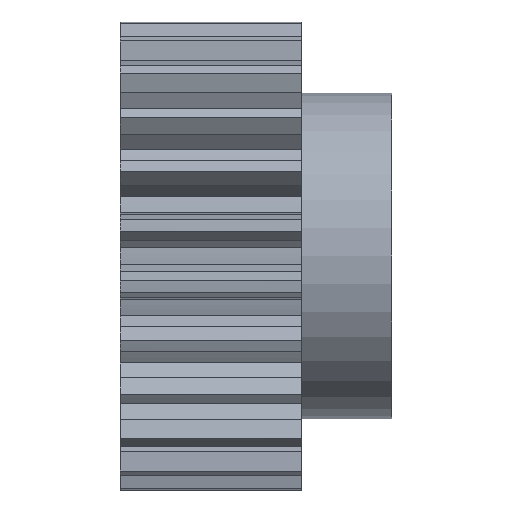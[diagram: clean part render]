
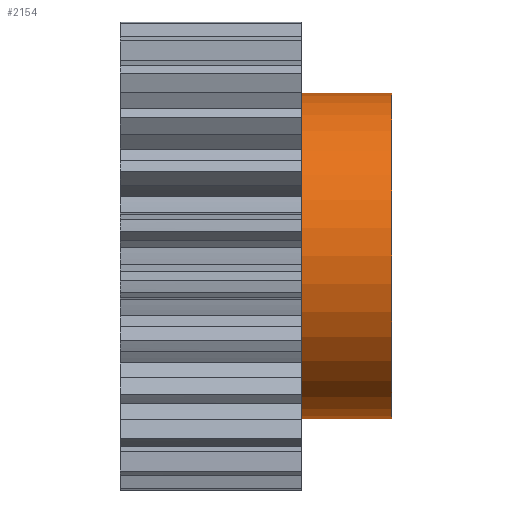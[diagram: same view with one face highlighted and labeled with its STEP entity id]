
A CAD part, front view. The second image highlights one B-rep face of the part: STEP entity #2154.
In plain terms, the highlighted cylindrical face has radius 45 mm (diameter 90 mm), a partial arc.
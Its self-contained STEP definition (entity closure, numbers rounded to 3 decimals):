
#1940 = EDGE_CURVE ( 'NONE', #2182, #2193, #3957, .T. ) ;
#2010 = EDGE_CURVE ( 'NONE', #2189, #2122, #4026, .T. ) ;
#2071 = EDGE_LOOP ( 'NONE', ( #2149, #2153, #2155, #2156 ) ) ;
#2122 = VERTEX_POINT ( 'NONE', #4025 ) ;
#2128 = EDGE_CURVE ( 'NONE', #2122, #2182, #4043, .T. ) ;
#2149 = ORIENTED_EDGE ( 'NONE', *, *, #2202, .F. ) ;
#2153 = ORIENTED_EDGE ( 'NONE', *, *, #2010, .T. ) ;
#2154 = ADVANCED_FACE ( 'NONE', ( #4078 ), #4080, .T. ) ;
#2155 = ORIENTED_EDGE ( 'NONE', *, *, #2128, .T. ) ;
#2156 = ORIENTED_EDGE ( 'NONE', *, *, #1940, .T. ) ;
#2182 = VERTEX_POINT ( 'NONE', #4107 ) ;
#2189 = VERTEX_POINT ( 'NONE', #4109 ) ;
#2193 = VERTEX_POINT ( 'NONE', #4099 ) ;
#2202 = EDGE_CURVE ( 'NONE', #2189, #2193, #4132, .T. ) ;
#3953 = DIRECTION ( 'NONE',  ( 0., 0., 1. ) ) ;
#3954 = DIRECTION ( 'NONE',  ( 1., 0., 0. ) ) ;
#3955 = CARTESIAN_POINT ( 'NONE',  ( 25., 0., 0. ) ) ;
#3956 = AXIS2_PLACEMENT_3D ( 'NONE', #3955, #3954, #3953 ) ;
#3957 = CIRCLE ( 'NONE', #3956, 45. ) ;
#4011 = DIRECTION ( 'NONE',  ( 0., 0., 1. ) ) ;
#4012 = DIRECTION ( 'NONE',  ( -1., 0., 0. ) ) ;
#4013 = CARTESIAN_POINT ( 'NONE',  ( 50., 0., 0. ) ) ;
#4014 = AXIS2_PLACEMENT_3D ( 'NONE', #4013, #4012, #4011 ) ;
#4025 = CARTESIAN_POINT ( 'NONE',  ( 50., 0., 45. ) ) ;
#4026 = CIRCLE ( 'NONE', #4014, 45. ) ;
#4040 = DIRECTION ( 'NONE',  ( -1., 0., 0. ) ) ;
#4041 = VECTOR ( 'NONE', #4040, 1000. ) ;
#4042 = CARTESIAN_POINT ( 'NONE',  ( 25., 0., 45. ) ) ;
#4043 = LINE ( 'NONE', #4042, #4041 ) ;
#4071 = DIRECTION ( 'NONE',  ( 0., 0., 1. ) ) ;
#4075 = DIRECTION ( 'NONE',  ( -1., 0., 0. ) ) ;
#4076 = CARTESIAN_POINT ( 'NONE',  ( 25., 0., 0. ) ) ;
#4078 = FACE_OUTER_BOUND ( 'NONE', #2071, .T. ) ;
#4080 = CYLINDRICAL_SURFACE ( 'NONE', #4085, 45. ) ;
#4085 = AXIS2_PLACEMENT_3D ( 'NONE', #4076, #4075, #4071 ) ;
#4099 = CARTESIAN_POINT ( 'NONE',  ( 25., 0., -45. ) ) ;
#4107 = CARTESIAN_POINT ( 'NONE',  ( 25., 0., 45. ) ) ;
#4109 = CARTESIAN_POINT ( 'NONE',  ( 50., 0., -45. ) ) ;
#4129 = CARTESIAN_POINT ( 'NONE',  ( 25., 0., -45. ) ) ;
#4132 = LINE ( 'NONE', #4129, #4140 ) ;
#4140 = VECTOR ( 'NONE', #4177, 1000. ) ;
#4177 = DIRECTION ( 'NONE',  ( -1., 0., 0. ) ) ;
